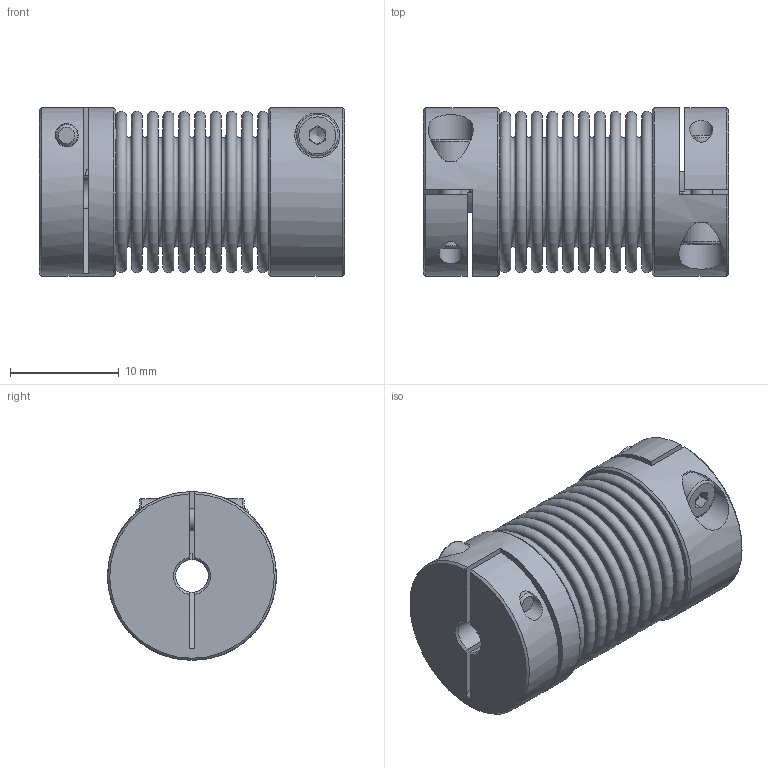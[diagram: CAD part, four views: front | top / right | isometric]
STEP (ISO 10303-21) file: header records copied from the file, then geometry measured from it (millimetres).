
FILE_DESCRIPTION(/* description */ ('STEP AP203'),/* implementation_level */ '2;1');
FILE_NAME(/* name */ 'KB2-5-28-3-3',/* time_stamp */ '2022-09-12T12:48:41+02:00',/* author */ ('License CC BY-ND 4.0'),/* organization */ ('CADENAS'),/* preprocessor_version */ 'ST-DEVELOPER v18.102',/* originating_system */ 'PARTsolutions',/* authorisation */ ' ');
FILE_SCHEMA (('CONFIG_CONTROL_DESIGN'));
Length unit declared in the file: millimetre
Products named in the file (1): KB2-5-28-3-3
Bounding box: 28 x 15.5 x 15.5 mm (x, y, z)
Volume: 2592.8 mm3; surface area: 6352.5 mm2
Topology: 1 solids, 1 shells, 156 faces, 311 edges, 207 vertices
Faces by surface type: plane 82, torus 40, cylinder 22, cone 12
Full cylindrical faces by diameter (mm): 2 x2, 2.126 x4, 3 x2, 3.8 x2, 10.4 x2, 15.5 x2
Entity records: 3812 total; most frequent: CARTESIAN_POINT 709, DIRECTION 674, ORIENTED_EDGE 480, AXIS2_PLACEMENT_3D 297, FACE_BOUND 274, EDGE_LOOP 272, EDGE_CURVE 240, VERTEX_POINT 198
